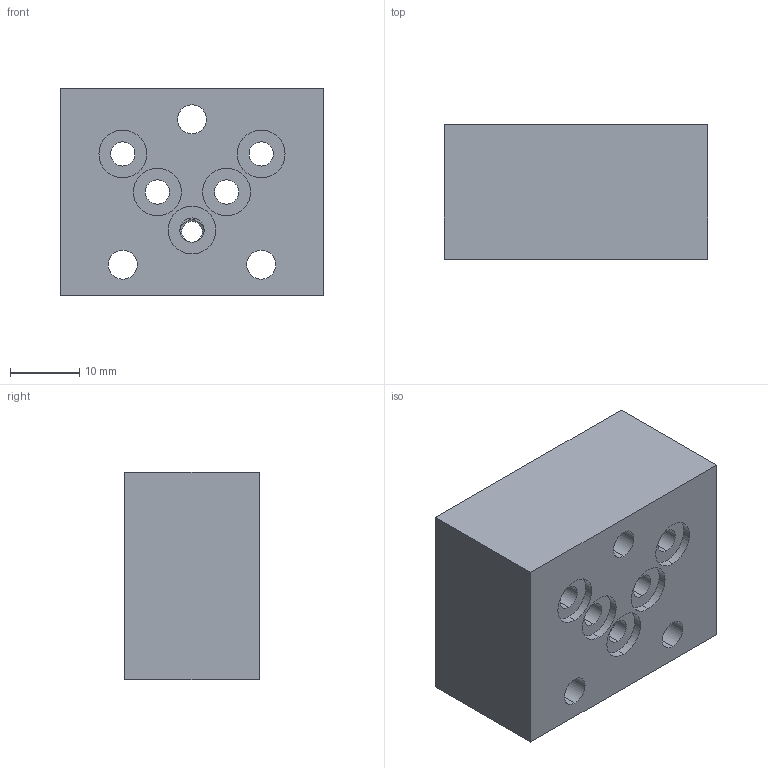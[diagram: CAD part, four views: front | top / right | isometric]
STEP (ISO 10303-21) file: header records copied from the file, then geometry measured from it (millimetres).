
FILE_DESCRIPTION (( 'STEP AP214' ), '1' );
FILE_NAME ('RNNSA03-P.STEP', '2017-04-11T09:31:05', ( '' ), ( '' ), 'SwSTEP 2.0', 'SolidWorks 2016', '' );
FILE_SCHEMA (( 'AUTOMOTIVE_DESIGN' ));
Length unit declared in the file: millimetre
Products named in the file (1): RNNSA03-P
Bounding box: 38 x 19.5 x 30 mm (x, y, z)
Volume: 20286.6 mm3; surface area: 6771.8 mm2
Topology: 1 solids, 2 shells, 54 faces, 126 edges, 82 vertices
Faces by surface type: cylinder 36, plane 16, cone 2
Entity records: 2196 total; most frequent: DIRECTION 312, CARTESIAN_POINT 263, ORIENTED_EDGE 252, AXIS2_PLACEMENT_3D 131, EDGE_CURVE 126, VERTEX_POINT 82, EDGE_LOOP 78, CIRCLE 76
